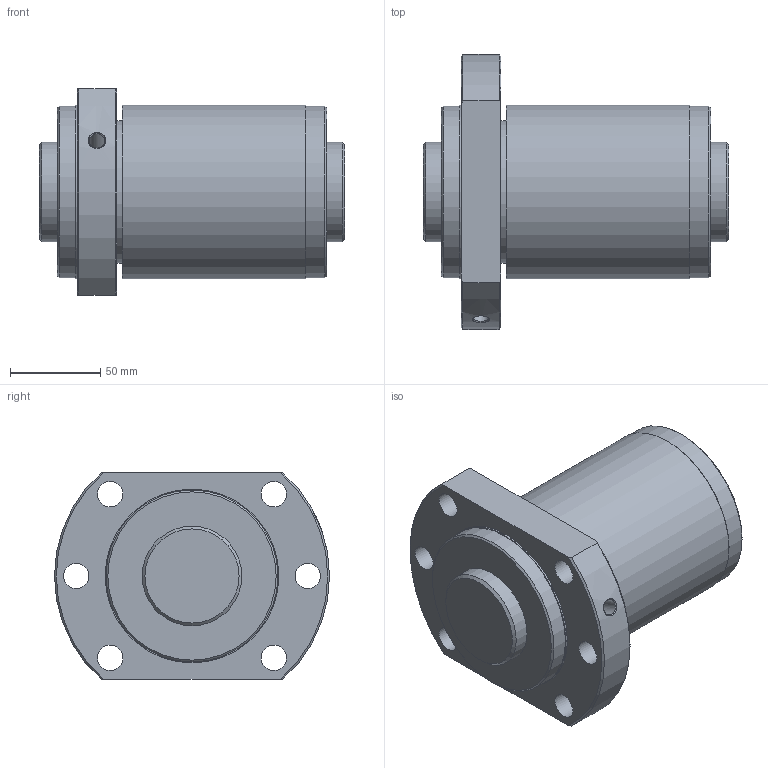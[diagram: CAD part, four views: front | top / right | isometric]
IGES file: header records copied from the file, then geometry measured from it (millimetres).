
Start section: Data from Parasolid IGES Translator 26.0.171, Copyright(c) 2006 Siemens PLM Software. All Rights Reserved.
Global section: file name: SBK5530-7.6RRG0+169LC0(0000).igs; native system: By Siemens PLM Incorporated; preprocessor: XPlus GENERIC/IGES 26.0.171; author: Noname; organization: Noname; date: 20240528.112049; units: millimetre
Bounding box: 169 x 152 x 114 mm (x, y, z)
Surface area: 142849.4 mm2 (no closed solid volume)
Topology: 0 solids, 0 shells, 37 faces, 159 edges, 132 vertices
Faces by surface type: revolution 26, extrusion 11
